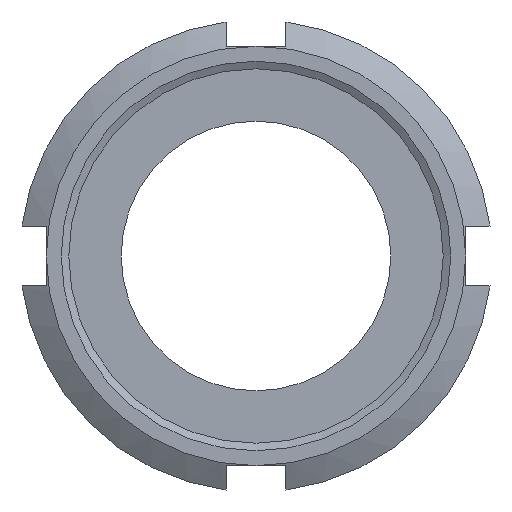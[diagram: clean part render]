
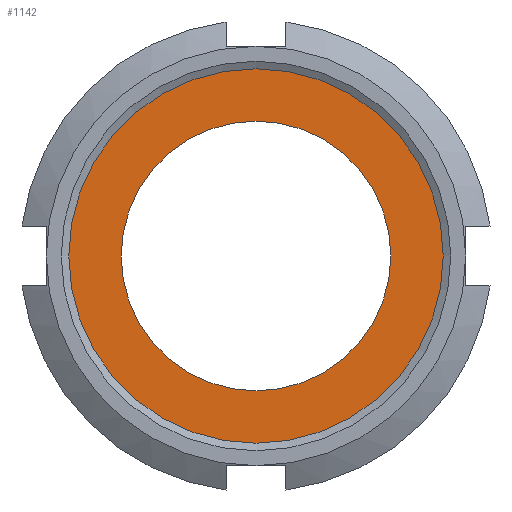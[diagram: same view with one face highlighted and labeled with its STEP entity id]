
A CAD part, front view. The second image highlights one B-rep face of the part: STEP entity #1142.
In plain terms, the highlighted planar face has unit normal (0, -1, 0).
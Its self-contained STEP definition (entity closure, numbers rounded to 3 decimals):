
#1108=CARTESIAN_POINT('',(25.0,8.935,0.0));
#1109=VERTEX_POINT('',#1108);
#1110=CARTESIAN_POINT('',(0.0,8.935,0.0));
#1111=DIRECTION('',(0.0,-1.0,0.0));
#1112=DIRECTION('',(1.0,0.0,0.0));
#1113=AXIS2_PLACEMENT_3D('',#1110,#1111,#1112);
#1114=CIRCLE('',#1113,25.0);
#1115=EDGE_CURVE('',#1109,#1109,#1114,.T.);
#1123=CARTESIAN_POINT('',(21.5,8.935,0.0));
#1124=DIRECTION('',(0.0,-1.0,0.0));
#1125=DIRECTION('',(0.0,0.0,-1.0));
#1126=AXIS2_PLACEMENT_3D('',#1123,#1124,#1125);
#1127=PLANE('',#1126);
#1128=ORIENTED_EDGE('',*,*,#1115,.T.);
#1129=EDGE_LOOP('',(#1128));
#1130=FACE_OUTER_BOUND('',#1129,.T.);
#1131=CARTESIAN_POINT('',(18.0,8.935,0.0));
#1132=VERTEX_POINT('',#1131);
#1133=CARTESIAN_POINT('',(0.0,8.935,0.0));
#1134=DIRECTION('',(0.0,-1.0,0.0));
#1135=DIRECTION('',(1.0,0.0,0.0));
#1136=AXIS2_PLACEMENT_3D('',#1133,#1134,#1135);
#1137=CIRCLE('',#1136,18.0);
#1138=EDGE_CURVE('',#1132,#1132,#1137,.T.);
#1139=ORIENTED_EDGE('',*,*,#1138,.F.);
#1140=EDGE_LOOP('',(#1139));
#1141=FACE_BOUND('',#1140,.T.);
#1142=ADVANCED_FACE('',(#1130,#1141),#1127,.T.);
